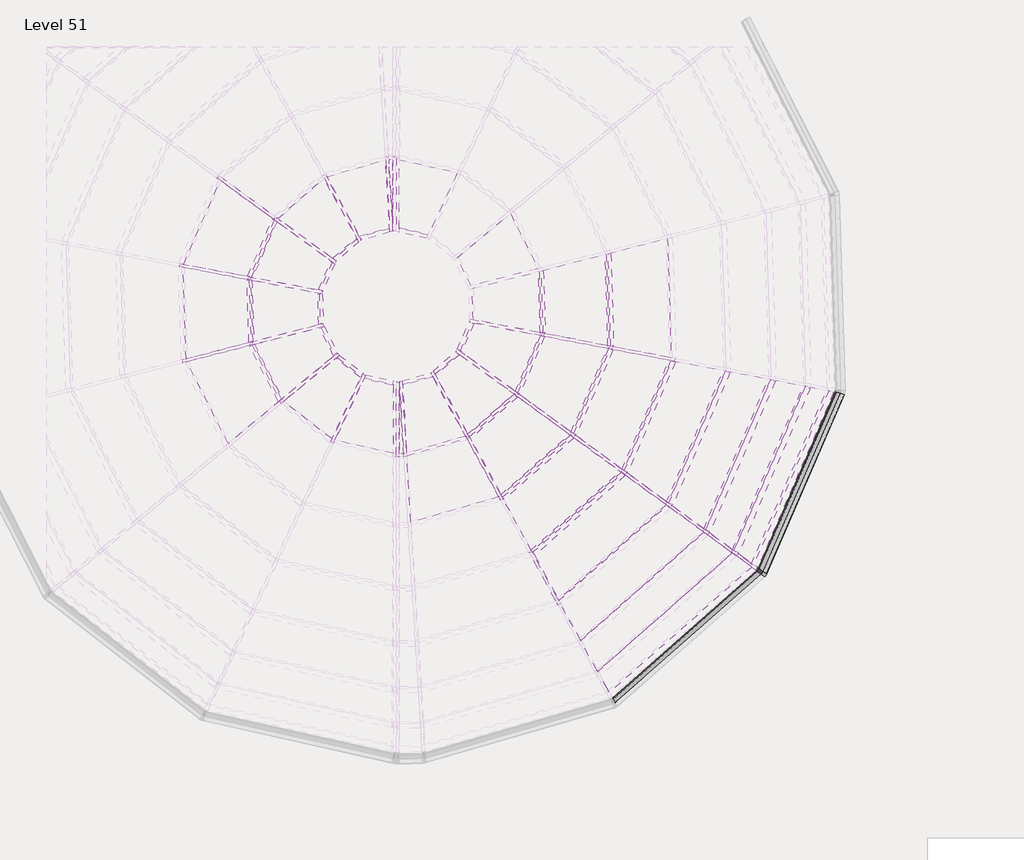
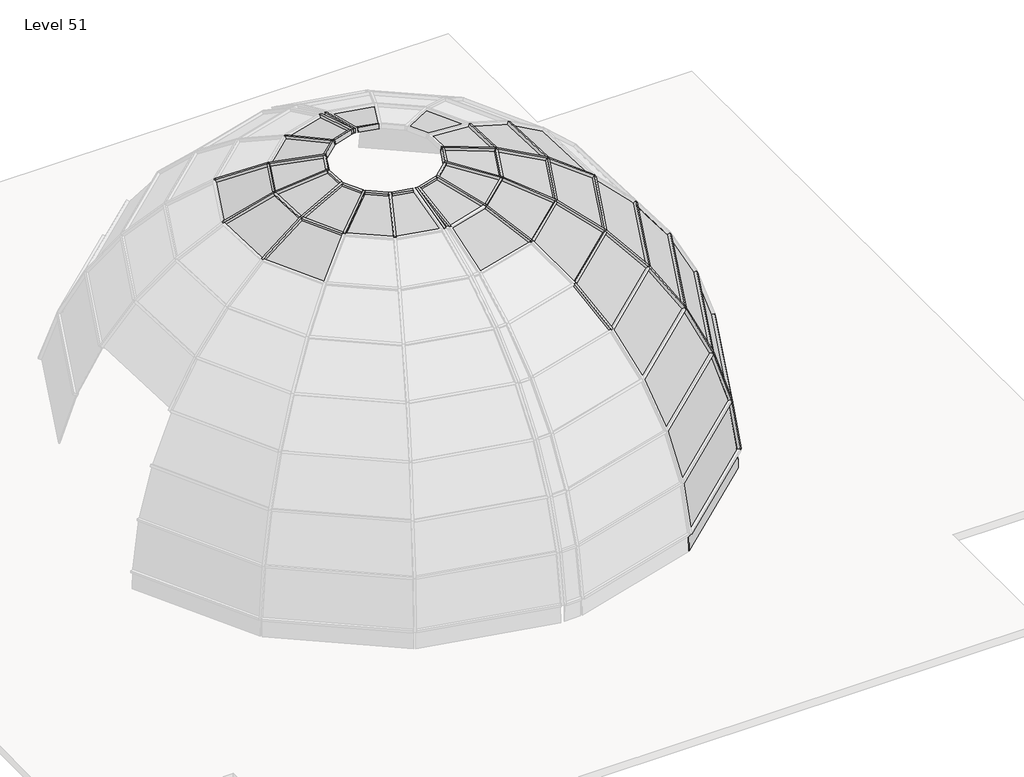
# One storey, part 3 of 5: 54 members, 37 plates.
"""IFC4 building model written with IfcOpenShell, lengths in millimetres."""

from ifc_helpers import new_model, si_unit, origin, place, context, project, spatial, transform, mapped, element, save
from components import member_d183bd50, member_bab2e2f0, member_4ad3c4be, member_d9f9b3f1, member_ae036e1e, member_bd7755a3, member_d21742c5, member_8f2bf440, member_92905304, member_01029f2d, member_1612663b, member_5eaec6db, member_043ce83e, member_8adeae2d, system_panel_glazed_c6a53631, system_panel_glazed_b6fcacd0, system_panel_glazed_ec629fbb, system_panel_glazed_b3b66b1f, system_panel_glazed_0b4b9341, system_panel_glazed_891999a5, system_panel_glazed_cbcbf4f6, system_panel_glazed_e82b84bd, system_panel_glazed_11359935, system_panel_glazed_44e6ebe2, system_panel_glazed_4a3a9a20

model = new_model("IFC4")

# Units and contexts
model_context = context("Model", 3, world=origin())
ifc_project = project(units=[si_unit("LENGTHUNIT", "METRE", prefix="MILLI")], contexts=[model_context])

# Site, building, storey
site = spatial("IfcSite", under=ifc_project)
building = spatial("IfcBuilding", under=site)
storey = spatial("IfcBuildingStorey", under=building, Name="Level 51", Elevation=152400.0)

# Members
placement = place(None, origin())
member_shape = member_d183bd50(model_context)
element("IfcMember", 1, ObjectType="Rectangular Mullion : 2.5\" x 5\" rectangular", at=placement, inside=storey, context=model_context, shape_type="MappedRepresentation", body=[
    mapped(member_shape, transform((10906.4819699, -11526.9660089, 153025.5719668), x_axis=(0.06431051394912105, -0.02788222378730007, -0.9975403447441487), y_axis=(0.9152243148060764, -0.3968012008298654, 0.07009465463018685), z_axis=(-0.39777960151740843, -0.917481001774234, 0.0))),
])
member_2_shape = member_bab2e2f0(model_context)
element("IfcMember", 2, ObjectType="Rectangular Mullion : 2.5\" x 5\" rectangular", at=placement, inside=storey, context=model_context, shape_type="MappedRepresentation", body=[
    mapped(member_2_shape, transform((10720.0249378, -11391.2790141, 154532.0243606), x_axis=(0.2189062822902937, -0.09490818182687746, -0.9711191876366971), y_axis=(0.8909834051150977, -0.38629140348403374, 0.23859489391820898), z_axis=(-0.3977796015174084, -0.917481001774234, 0.0))),
])
member_3_shape = member_4ad3c4be(model_context)
element("IfcMember", 3, ObjectType="Rectangular Mullion : 2.5\" x 5\" rectangular", at=placement, inside=storey, context=model_context, shape_type="MappedRepresentation", body=[
    mapped(member_3_shape, transform((9758.6913571, -10691.7051598, 157327.0596321), x_axis=(0.5029371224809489, -0.2180515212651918, -0.8363658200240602), y_axis=(0.7673497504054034, -0.33268926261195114, 0.5481717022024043), z_axis=(-0.3977796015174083, -0.917481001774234, 0.0))),
])
member_4_shape = member_d9f9b3f1(model_context)
element("IfcMember", 4, ObjectType="Rectangular Mullion : 2.5\" x 5\" rectangular", at=placement, inside=storey, context=model_context, shape_type="MappedRepresentation", body=[
    mapped(member_4_shape, transform((10333.8523952, -11110.2566723, 155979.2538554), x_axis=(0.3665985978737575, -0.15894110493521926, -0.9167023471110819), y_axis=(0.8410569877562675, -0.36464549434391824, 0.39957077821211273), z_axis=(-0.39777960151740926, -0.9174810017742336, 0.0))),
])
member_5_shape = member_ae036e1e(model_context)
element("IfcMember", 5, ObjectType="Rectangular Mullion : 2.5\" x 5\" rectangular", at=placement, inside=storey, context=model_context, shape_type="MappedRepresentation", body=[
    mapped(member_5_shape, transform((2843.4555089, -7547.7281328, 161416.1055894), x_axis=(0.5929825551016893, 0.7641063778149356, 0.2539943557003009), y_axis=(-0.155720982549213, -0.20065918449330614, 0.9672057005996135), z_axis=(0.7900143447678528, -0.6130883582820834, 0.0))),
])
element("IfcMember", 6, ObjectType="Rectangular Mullion : 2.5\" x 5\" rectangular", at=placement, inside=storey, context=model_context, shape_type="MappedRepresentation", body=[
    mapped(member_5_shape, transform((2328.6743232, -7131.1164073, 161416.1055894), x_axis=(0.8619544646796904, 0.4387725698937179, 0.25399435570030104), y_axis=(-0.22635471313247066, -0.11522446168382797, 0.9672057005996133), z_axis=(0.4536496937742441, -0.8911800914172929, 0.0))),
])
element("IfcMember", 7, ObjectType="Rectangular Mullion : 2.5\" x 5\" rectangular", at=placement, inside=storey, context=model_context, shape_type="MappedRepresentation", body=[
    mapped(member_5_shape, transform((2040.3622291, -6534.9275653, 161416.1055894), x_axis=(0.9667445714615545, 0.02986303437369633, 0.2539943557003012), y_axis=(-0.25387326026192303, -0.007842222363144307, 0.9672057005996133), z_axis=(0.030875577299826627, -0.9995232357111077, 0.0))),
])
element("IfcMember", 8, ObjectType="Rectangular Mullion : 2.5\" x 5\" rectangular", at=placement, inside=storey, context=model_context, shape_type="MappedRepresentation", body=[
    mapped(member_5_shape, transform((2033.4358161, -5872.7213861, 161416.1055894), x_axis=(0.8873928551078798, -0.3847346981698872, 0.25399435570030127), y_axis=(-0.23303499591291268, 0.10103377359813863, 0.9672057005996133), z_axis=(-0.39777960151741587, -0.9174810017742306, 0.0))),
])
element("IfcMember", 9, ObjectType="Rectangular Mullion : 2.5\" x 5\" rectangular", at=placement, inside=storey, context=model_context, shape_type="MappedRepresentation", body=[
    mapped(member_5_shape, transform((2309.2144008, -5270.6323801, 161416.1055894), x_axis=(0.6390139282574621, -0.7260496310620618, 0.2539943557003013), y_axis=(-0.1678091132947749, 0.19066524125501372, 0.9672057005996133), z_axis=(-0.750667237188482, -0.660680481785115, 0.0))),
])
element("IfcMember", 10, ObjectType="Rectangular Mullion : 2.5\" x 5\" rectangular", at=placement, inside=storey, context=model_context, shape_type="MappedRepresentation", body=[
    mapped(member_5_shape, transform((2815.1687291, -4843.3441675, 161416.1055894), x_axis=(0.26891806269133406, -0.9290693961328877, 0.2539943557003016), y_axis=(-0.07061959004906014, 0.24397952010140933, 0.9672057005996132), z_axis=(-0.9605706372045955, -0.2780360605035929, 0.0))),
])
element("IfcMember", 11, ObjectType="Rectangular Mullion : 2.5\" x 5\" rectangular", at=placement, inside=storey, context=model_context, shape_type="MappedRepresentation", body=[
    mapped(member_5_shape, transform((5001.8382926, -6503.9517044, 161416.1055894), x_axis=(-0.8873928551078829, 0.3847346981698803, 0.25399435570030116), y_axis=(0.23303499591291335, -0.10103377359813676, 0.9672057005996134), z_axis=(0.3977796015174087, 0.9174810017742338, 0.0))),
])
element("IfcMember", 12, ObjectType="Rectangular Mullion : 2.5\" x 5\" rectangular", at=placement, inside=storey, context=model_context, shape_type="MappedRepresentation", body=[
    mapped(member_5_shape, transform((4726.0597079, -7106.0407104, 161416.1055894), x_axis=(-0.6390139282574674, 0.7260496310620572, 0.253994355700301), y_axis=(0.16780911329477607, -0.19066524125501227, 0.9672057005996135), z_axis=(0.7506672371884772, 0.6606804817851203, 0.0))),
])
element("IfcMember", 13, ObjectType="Rectangular Mullion : 2.5\" x 5\" rectangular", at=placement, inside=storey, context=model_context, shape_type="MappedRepresentation", body=[
    mapped(member_5_shape, transform((4220.1053797, -7533.3289231, 161416.1055894), x_axis=(-0.26891806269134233, 0.9290693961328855, 0.2539943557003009), y_axis=(0.0706195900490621, -0.243979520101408, 0.9672057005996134), z_axis=(0.960570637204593, 0.2780360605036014, 0.0))),
])
member_6_shape = member_bd7755a3(model_context)
element("IfcMember", 14, ObjectType="Rectangular Mullion : 2.5\" x 5\" rectangular", at=placement, inside=storey, context=model_context, shape_type="MappedRepresentation", body=[
    mapped(member_6_shape, transform((8110.1164596, -9492.0176442, 159578.4455769), x_axis=(0.7269350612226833, -0.31516722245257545, -0.6101106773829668), y_axis=(0.5597649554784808, -0.24268958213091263, 0.7923162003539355), z_axis=(-0.3977796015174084, -0.917481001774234, 0.0))),
])
element("IfcMember", 15, ObjectType="Rectangular Mullion : 2.5\" x 5\" rectangular", at=placement, inside=storey, context=model_context, shape_type="MappedRepresentation", body=[
    mapped(member_6_shape, transform((6265.6411804, -11133.3996606, 159578.4455769), x_axis=(0.523467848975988, -0.5947658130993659, -0.6101106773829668), y_axis=(0.4030882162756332, -0.4579900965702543, 0.7923162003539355), z_axis=(-0.7506672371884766, -0.6606804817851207, 0.0))),
])
member_7_shape = member_d21742c5(model_context)
element("IfcMember", 16, ObjectType="Rectangular Mullion : 2.5\" x 5\" rectangular", at=placement, inside=storey, context=model_context, shape_type="MappedRepresentation", body=[
    mapped(member_7_shape, transform((5654.395748, -10019.1268344, 160419.4872466), x_axis=(0.582642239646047, -0.6619999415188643, -0.47147014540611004), y_axis=(0.3114911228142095, -0.35391719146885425, 0.8818820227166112), z_axis=(-0.7506672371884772, -0.6606804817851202, 0.0))),
])
element("IfcMember", 17, ObjectType="Rectangular Mullion : 2.5\" x 5\" rectangular", at=placement, inside=storey, context=model_context, shape_type="MappedRepresentation", body=[
    mapped(member_7_shape, transform((7831.5761292, -6982.4534213, 160419.4872466), x_axis=(0.8814615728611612, 0.027228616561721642, -0.4714701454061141), y_axis=(0.4712453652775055, 0.014556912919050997, 0.881882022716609), z_axis=(0.030875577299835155, -0.9995232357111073, 0.0))),
])
element("IfcMember", 18, ObjectType="Rectangular Mullion : 2.5\" x 5\" rectangular", at=placement, inside=storey, context=model_context, shape_type="MappedRepresentation", body=[
    mapped(member_7_shape, transform((7082.4963475, -8744.2062944, 160419.4872466), x_axis=(0.8091100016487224, -0.3507946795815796, -0.4714701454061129), y_axis=(0.4325649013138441, -0.1875412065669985, 0.8818820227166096), z_axis=(-0.397779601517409, -0.9174810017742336, 0.0))),
])
member_8_shape = member_8f2bf440(model_context)
element("IfcMember", 19, ObjectType="Rectangular Mullion : 2.5\" x 5\" rectangular", at=placement, inside=storey, context=model_context, shape_type="MappedRepresentation", body=[
    mapped(member_8_shape, transform((625.6670963, -6961.4397061, 161037.7653816), x_axis=(-0.8440083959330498, -0.429637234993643, -0.32103220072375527), y_axis=(-0.2860975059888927, -0.14563615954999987, 0.9470682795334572), z_axis=(-0.4536496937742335, 0.8911800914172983, 0.0))),
])
element("IfcMember", 20, ObjectType="Rectangular Mullion : 2.5\" x 5\" rectangular", at=placement, inside=storey, context=model_context, shape_type="MappedRepresentation", body=[
    mapped(member_8_shape, transform((1079.0709232, -4452.0836951, 161037.7653816), x_axis=(-0.8689171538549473, 0.3767244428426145, -0.3210322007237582), y_axis=(-0.2945409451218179, 0.1277000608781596, 0.9470682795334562), z_axis=(0.39777960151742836, 0.9174810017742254, 0.0))),
])
element("IfcMember", 21, ObjectType="Rectangular Mullion : 2.5\" x 5\" rectangular", at=placement, inside=storey, context=model_context, shape_type="MappedRepresentation", body=[
    mapped(member_8_shape, transform((571.8144787, -5656.0696117, 161037.7653816), x_axis=(-0.9466167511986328, -0.029241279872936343, -0.3210322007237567), y_axis=(-0.3208791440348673, -0.0099120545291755, 0.9470682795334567), z_axis=(-0.030875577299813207, 0.9995232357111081, 0.0))),
])
element("IfcMember", 22, ObjectType="Rectangular Mullion : 2.5\" x 5\" rectangular", at=placement, inside=storey, context=model_context, shape_type="MappedRepresentation", body=[
    mapped(member_8_shape, transform((6463.45963, -6720.6034789, 161037.7653816), x_axis=(0.9466167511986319, 0.029241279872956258, -0.32103220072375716), y_axis=(0.32087914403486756, 0.009912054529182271, 0.9470682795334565), z_axis=(0.03087557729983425, -0.9995232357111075, 0.0))),
])
element("IfcMember", 23, ObjectType="Rectangular Mullion : 2.5\" x 5\" rectangular", at=placement, inside=storey, context=model_context, shape_type="MappedRepresentation", body=[
    mapped(member_8_shape, transform((5956.2031855, -7924.5893954, 161037.7653816), x_axis=(0.868917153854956, -0.3767244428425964, -0.3210322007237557), y_axis=(0.29454094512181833, -0.12770006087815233, 0.947068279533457), z_axis=(-0.39777960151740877, -0.9174810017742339, 0.0))),
])
element("IfcMember", 24, ObjectType="Rectangular Mullion : 2.5\" x 5\" rectangular", at=placement, inside=storey, context=model_context, shape_type="MappedRepresentation", body=[
    mapped(member_8_shape, transform((4984.4579542, -8797.8604834, 161037.7653816), x_axis=(0.6257095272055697, -0.7109331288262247, -0.32103220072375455), y_axis=(0.21209970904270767, -0.24098835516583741, 0.9470682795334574), z_axis=(-0.7506672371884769, -0.6606804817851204, 0.0))),
])
member_9_shape = member_92905304(model_context)
element("IfcMember", 25, ObjectType="Rectangular Mullion : 2.5\" x 5\" rectangular", at=placement, inside=storey, context=model_context, shape_type="MappedRepresentation", body=[
    mapped(member_9_shape, transform((3455.6673997, -7698.4797092, 161416.1055894), x_axis=(0.21106158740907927, 0.9438961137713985, 0.2539943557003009), y_axis=(-0.05542611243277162, -0.2478731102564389, 0.9672057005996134), z_axis=(0.9759000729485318, -0.21821789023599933, 0.0))),
])
element("IfcMember", 26, ObjectType="Rectangular Mullion : 2.5\" x 5\" rectangular", at=placement, inside=storey, context=model_context, shape_type="MappedRepresentation", body=[
    mapped(member_9_shape, transform((3579.606709, -4678.1933813, 161416.1055894), x_axis=(-0.21106158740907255, -0.9438961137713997, 0.2539943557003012), y_axis=(0.05542611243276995, 0.24787311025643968, 0.9672057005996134), z_axis=(-0.9759000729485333, 0.21821789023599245, 0.0))),
])
member_10_shape = member_01029f2d(model_context)
element("IfcMember", 27, ObjectType="Rectangular Mullion : 2.5\" x 5\" rectangular", at=placement, inside=storey, context=model_context, shape_type="MappedRepresentation", body=[
    mapped(member_10_shape, transform((9010.518519, -10147.2509073, 158538.0026411), x_axis=(0.6240863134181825, -0.27057650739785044, -0.733010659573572), y_axis=(0.6725233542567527, -0.2915766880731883, 0.6802171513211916), z_axis=(-0.39777960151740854, -0.9174810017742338, 0.0))),
])
member_11_shape = member_1612663b(model_context)
element("IfcMember", 28, ObjectType="Rectangular Mullion : 2.5\" x 5\" rectangular", at=placement, inside=storey, context=model_context, shape_type="MappedRepresentation", body=[
    mapped(member_11_shape, transform((611.2637185, -6933.1447382, 161037.7653816), x_axis=(-0.24824532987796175, 0.9686971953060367, 0.0), y_axis=(-0.39299494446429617, -0.10071171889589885, 0.9140088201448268), z_axis=(0.8853977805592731, 0.22689842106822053, 0.4056943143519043))),
])
element("IfcMember", 29, ObjectType="Rectangular Mullion : 2.5\" x 5\" rectangular", at=placement, inside=storey, context=model_context, shape_type="MappedRepresentation", body=[
    mapped(member_11_shape, transform((570.8341791, -5624.3347489, 161037.7653816), x_axis=(0.1879823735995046, 0.9821724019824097, 0.0), y_axis=(-0.3984617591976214, 0.07626338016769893, 0.9140088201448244), z_axis=(0.8977142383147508, -0.17181754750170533, 0.4056943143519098))),
])
element("IfcMember", 30, ObjectType="Rectangular Mullion : 2.5\" x 5\" rectangular", at=placement, inside=storey, context=model_context, shape_type="MappedRepresentation", body=[
    mapped(member_11_shape, transform((1091.7004255, -4422.9536733, 161037.7653816), x_axis=(0.5884039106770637, 0.8085671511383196, 0.0), y_axis=(-0.32803109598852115, 0.2387121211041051, 0.9140088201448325), z_axis=(0.7390375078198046, -0.5378063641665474, 0.40569431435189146))),
])
element("IfcMember", 31, ObjectType="Rectangular Mullion : 2.5\" x 5\" rectangular", at=placement, inside=storey, context=model_context, shape_type="MappedRepresentation", body=[
    mapped(member_11_shape, transform((6464.4399296, -6752.3383416, 161037.7653816), x_axis=(-0.187982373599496, -0.9821724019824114, 0.0), y_axis=(0.3984617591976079, -0.076263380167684, 0.9140088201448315), z_axis=(-0.8977142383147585, 0.1718175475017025, 0.40569431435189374))),
])
element("IfcMember", 32, ObjectType="Rectangular Mullion : 2.5\" x 5\" rectangular", at=placement, inside=storey, context=model_context, shape_type="MappedRepresentation", body=[
    mapped(member_11_shape, transform((7832.5564288, -7014.188284, 160419.4872466), x_axis=(-0.18798237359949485, -0.9821724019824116, 0.0), y_axis=(0.5420261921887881, -0.10374081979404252, 0.8339337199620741), z_axis=(-0.8190666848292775, 0.1567648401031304, 0.5518646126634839))),
])
element("IfcMember", 33, ObjectType="Rectangular Mullion : 2.5\" x 5\" rectangular", at=placement, inside=storey, context=model_context, shape_type="MappedRepresentation", body=[
    mapped(member_11_shape, transform((5943.5736832, -7953.7194172, 161037.7653816), x_axis=(-0.5884039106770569, -0.8085671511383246, 0.0), y_axis=(0.32803109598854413, -0.2387121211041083, 0.9140088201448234), z_axis=(-0.7390375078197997, 0.5378063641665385, 0.40569431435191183))),
])
element("IfcMember", 34, ObjectType="Rectangular Mullion : 2.5\" x 5\" rectangular", at=placement, inside=storey, context=model_context, shape_type="MappedRepresentation", body=[
    mapped(member_11_shape, transform((7069.8668451, -8773.3363162, 160419.4872466), x_axis=(-0.588403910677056, -0.8085671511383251, 0.0), y_axis=(0.44621959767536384, -0.32471929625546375, 0.83393371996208), z_axis=(-0.674291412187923, 0.4906898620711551, 0.5518646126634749))),
])
element("IfcMember", 35, ObjectType="Rectangular Mullion : 2.5\" x 5\" rectangular", at=placement, inside=storey, context=model_context, shape_type="MappedRepresentation", body=[
    mapped(member_11_shape, transform((8097.4869573, -9521.147666, 159578.4455769), x_axis=(-0.5884039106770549, -0.8085671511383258, 0.0), y_axis=(0.5520131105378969, -0.4017064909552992, 0.7306937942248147), z_axis=(-0.5908149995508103, 0.4299430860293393, 0.6827053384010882))),
])
element("IfcMember", 36, ObjectType="Rectangular Mullion : 2.5\" x 5\" rectangular", at=placement, inside=storey, context=model_context, shape_type="MappedRepresentation", body=[
    mapped(member_11_shape, transform((8997.8890166, -10176.3809291, 158538.0026411), x_axis=(-0.5884039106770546, -0.8085671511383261, 0.0), y_axis=(0.6424729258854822, -0.46753517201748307, 0.6071568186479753), z_axis=(-0.4909270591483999, 0.3572534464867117, 0.7945820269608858))),
])
element("IfcMember", 37, ObjectType="Rectangular Mullion : 2.5\" x 5\" rectangular", at=placement, inside=storey, context=model_context, shape_type="MappedRepresentation", body=[
    mapped(member_11_shape, transform((9746.0618547, -10720.8351816, 157327.0596321), x_axis=(-0.5884039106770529, -0.8085671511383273, 0.0), y_axis=(0.7150862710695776, -0.5203767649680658, 0.4667543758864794), z_axis=(-0.3774022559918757, 0.27464010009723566, 0.8843869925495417))),
])
element("IfcMember", 38, ObjectType="Rectangular Mullion : 2.5\" x 5\" rectangular", at=placement, inside=storey, context=model_context, shape_type="MappedRepresentation", body=[
    mapped(member_11_shape, transform((10321.2228929, -11139.3866941, 155979.2538554), x_axis=(-0.5884039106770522, -0.8085671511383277, 0.0), y_axis=(0.7678361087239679, -0.5587634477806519, 0.3133865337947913), z_axis=(-0.25339405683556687, 0.1843978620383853, 0.9496256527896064))),
])
element("IfcMember", 39, ObjectType="Rectangular Mullion : 2.5\" x 5\" rectangular", at=placement, inside=storey, context=model_context, shape_type="MappedRepresentation", body=[
    mapped(member_11_shape, transform((4960.6242694, -8818.8370887, 161037.7653816), x_axis=(-0.8767485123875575, -0.4809491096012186, 0.0), y_axis=(0.1951183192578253, -0.3556918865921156, 0.9140088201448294), z_axis=(-0.4395917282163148, 0.8013558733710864, 0.4056943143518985))),
])
element("IfcMember", 40, ObjectType="Rectangular Mullion : 2.5\" x 5\" rectangular", at=placement, inside=storey, context=model_context, shape_type="MappedRepresentation", body=[
    mapped(member_11_shape, transform((6241.8074956, -11154.3762659, 159578.4455769), x_axis=(-0.8767485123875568, -0.48094910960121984, 0.0), y_axis=(0.32834652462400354, -0.5985608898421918, 0.7306937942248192), z_axis=(-0.351426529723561, 0.6406346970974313, 0.6827053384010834))),
])
member_12_shape = member_5eaec6db(model_context)
element("IfcMember", 41, ObjectType="Rectangular Mullion : 2.5\" x 5\" rectangular", at=placement, inside=storey, context=model_context, shape_type="MappedRepresentation", body=[
    mapped(member_12_shape, transform((10707.3954355, -11420.4090359, 154532.0243606), x_axis=(-0.5884039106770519, -0.8085671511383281, 0.0), y_axis=(0.7992571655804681, -0.5816289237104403, 0.15131351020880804), z_axis=(-0.12234713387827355, 0.08903346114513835, 0.9884858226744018))),
])
member_13_shape = member_043ce83e(model_context)
element("IfcMember", 42, ObjectType="Rectangular Mullion : 2.5\" x 5\" rectangular", at=placement, inside=storey, context=model_context, shape_type="MappedRepresentation", body=[
    mapped(member_13_shape, transform((2784.6706113, -4852.1718124, 161416.1055894), x_axis=(0.8767485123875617, 0.480949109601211, 0.0), y_axis=(-0.11939789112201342, 0.21765696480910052, 0.9686947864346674), z_axis=(0.46589289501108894, -0.8493017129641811, 0.24825472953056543))),
])
element("IfcMember", 43, ObjectType="Rectangular Mullion : 2.5\" x 5\" rectangular", at=placement, inside=storey, context=model_context, shape_type="MappedRepresentation", body=[
    mapped(member_13_shape, transform((3423.5731625, -4667.2422076, 161416.1055894), x_axis=(0.9980933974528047, 0.061721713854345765, 0.0), y_axis=(-0.015322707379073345, 0.2477814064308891, 0.9686947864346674), z_axis=(0.05978950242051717, -0.9668478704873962, 0.24825472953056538))),
])
element("IfcMember", 44, ObjectType="Rectangular Mullion : 2.5\" x 5\" rectangular", at=placement, inside=storey, context=model_context, shape_type="MappedRepresentation", body=[
    mapped(member_13_shape, transform((2868.5384643, -7567.1936881, 161416.1055894), x_axis=(-0.9047619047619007, 0.42591770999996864, 0.0), y_axis=(-0.10573608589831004, -0.22461142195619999, 0.9686947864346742), z_axis=(0.41258426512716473, 0.8764381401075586, 0.24825472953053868))),
])
element("IfcMember", 45, ObjectType="Rectangular Mullion : 2.5\" x 5\" rectangular", at=placement, inside=storey, context=model_context, shape_type="MappedRepresentation", body=[
    mapped(member_13_shape, transform((2343.077701, -7159.4113752, 161416.1055894), x_axis=(-0.637188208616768, 0.7707082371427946, 0.0), y_axis=(-0.191331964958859, -0.15818498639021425, 0.9686947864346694), z_axis=(0.7465810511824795, 0.6172408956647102, 0.2482547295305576))),
])
element("IfcMember", 46, ObjectType="Rectangular Mullion : 2.5\" x 5\" rectangular", at=placement, inside=storey, context=model_context, shape_type="MappedRepresentation", body=[
    mapped(member_13_shape, transform((2041.3425287, -6566.662428, 161416.1055894), x_axis=(-0.2482453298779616, 0.9686971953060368, 0.0), y_axis=(-0.2404836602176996, -0.0616280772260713, 0.9686947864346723), z_axis=(0.9383719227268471, 0.2404739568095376, 0.2482547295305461))),
])
element("IfcMember", 47, ObjectType="Rectangular Mullion : 2.5\" x 5\" rectangular", at=placement, inside=storey, context=model_context, shape_type="MappedRepresentation", body=[
    mapped(member_13_shape, transform((2020.8063137, -5901.8514079, 161416.1055894), x_axis=(0.18798237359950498, 0.9821724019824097, 0.0), y_axis=(-0.24382894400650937, 0.046667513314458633, 0.9686947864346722), z_axis=(0.9514252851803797, -0.18209754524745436, 0.24825472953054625))),
])
element("IfcMember", 48, ObjectType="Rectangular Mullion : 2.5\" x 5\" rectangular", at=placement, inside=storey, context=model_context, shape_type="MappedRepresentation", body=[
    mapped(member_13_shape, transform((2285.380716, -5291.6089854, 161416.1055894), x_axis=(0.5884039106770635, 0.8085671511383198, 0.0), y_axis=(-0.20073061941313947, 0.14607405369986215, 0.968694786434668), z_axis=(0.783254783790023, -0.5699838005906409, 0.24825472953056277))),
])
element("IfcMember", 49, ObjectType="Rectangular Mullion : 2.5\" x 5\" rectangular", at=placement, inside=storey, context=model_context, shape_type="MappedRepresentation", body=[
    mapped(member_13_shape, transform((5014.467795, -6474.8216826, 161416.1055894), x_axis=(-0.18798237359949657, -0.9821724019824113, 0.0), y_axis=(0.24382894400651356, -0.046667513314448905, 0.9686947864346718), z_axis=(-0.9514252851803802, 0.1820975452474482, 0.2482547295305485))),
])
element("IfcMember", 50, ObjectType="Rectangular Mullion : 2.5\" x 5\" rectangular", at=placement, inside=storey, context=model_context, shape_type="MappedRepresentation", body=[
    mapped(member_13_shape, transform((4749.8933927, -7085.0641051, 161416.1055894), x_axis=(-0.5884039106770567, -0.8085671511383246, 0.0), y_axis=(0.20073061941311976, -0.14607405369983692, 0.968694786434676), z_axis=(-0.7832547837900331, 0.5699838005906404, 0.24825472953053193))),
])
element("IfcMember", 51, ObjectType="Rectangular Mullion : 2.5\" x 5\" rectangular", at=placement, inside=storey, context=model_context, shape_type="MappedRepresentation", body=[
    mapped(member_13_shape, transform((4250.6034974, -7524.5012781, 161416.1055894), x_axis=(-0.8767485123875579, -0.48094910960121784, 0.0), y_axis=(0.11939789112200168, -0.21765696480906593, 0.9686947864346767), z_axis=(-0.46589289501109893, 0.8493017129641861, 0.24825472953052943))),
])
element("IfcMember", 52, ObjectType="Rectangular Mullion : 2.5\" x 5\" rectangular", at=placement, inside=storey, context=model_context, shape_type="MappedRepresentation", body=[
    mapped(member_13_shape, transform((3611.7009463, -7709.430883, 161416.1055894), x_axis=(-0.998093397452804, -0.06172171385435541, 0.0), y_axis=(0.01532270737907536, -0.24778140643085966, 0.9686947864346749), z_axis=(-0.059789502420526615, 0.9668478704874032, 0.24825472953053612))),
])
member_14_shape = member_8adeae2d(model_context)
element("IfcMember", 53, ObjectType="Rectangular Mullion : 2.5\" x 5\" rectangular", at=placement, inside=storey, context=model_context, shape_type="MappedRepresentation", body=[
    mapped(member_14_shape, transform((3517.6370544, -4664.3365453, 161416.1055894), x_axis=(0.9999705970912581, 0.0019037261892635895, 0.007428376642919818), y_axis=(-0.007668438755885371, 0.24824743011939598, 0.9686663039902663), z_axis=(0.0, -0.9686947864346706, 0.2482547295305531))),
])
element("IfcMember", 54, ObjectType="Rectangular Mullion : 2.5\" x 5\" rectangular", at=placement, inside=storey, context=model_context, shape_type="MappedRepresentation", body=[
    mapped(member_14_shape, transform((3517.6370544, -7712.3365453, 161416.1055894), x_axis=(-0.9999705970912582, -0.0019037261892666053, 0.007428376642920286), y_axis=(0.007668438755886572, -0.24824743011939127, 0.9686663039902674), z_axis=(0.0, 0.9686947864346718, 0.24825472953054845))),
])

# Plates
system_panel_glazed_shape = system_panel_glazed_c6a53631(model_context)
element("IfcPlate", 55, ObjectType="System Panel : Glazed", at=placement, inside=storey, context=model_context, shape_type="MappedRepresentation", body=[
    mapped(system_panel_glazed_shape, transform((3163.8347517, -7696.1582187, 161399.9769479), x_axis=(-0.9759000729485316, 0.2182178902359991, 0.0), y_axis=(0.05542611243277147, 0.2478731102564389, -0.9672057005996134), z_axis=(-0.2110615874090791, -0.9438961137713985, -0.2539943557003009))),
])
element("IfcPlate", 56, ObjectType="System Panel : Glazed", at=placement, inside=storey, context=model_context, shape_type="MappedRepresentation", body=[
    mapped(system_panel_glazed_shape, transform((3871.439357, -4680.5148718, 161399.9769479), x_axis=(0.9759000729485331, -0.2182178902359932, 0.0), y_axis=(-0.055426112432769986, -0.24787311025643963, -0.9672057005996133), z_axis=(0.21106158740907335, 0.9438961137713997, -0.25399435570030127))),
])
system_panel_glazed_2_shape = system_panel_glazed_b6fcacd0(model_context)
element("IfcPlate", 57, ObjectType="System Panel : Glazed", at=placement, inside=storey, context=model_context, shape_type="MappedRepresentation", body=[
    mapped(system_panel_glazed_2_shape, transform((2568.1536904, -7411.8232867, 161399.9769479), x_axis=(-0.790014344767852, 0.6130883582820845, 0.0), y_axis=(0.15572098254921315, 0.20065918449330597, -0.9672057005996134), z_axis=(-0.5929825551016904, -0.7641063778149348, -0.2539943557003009))),
])
element("IfcPlate", 58, ObjectType="System Panel : Glazed", at=placement, inside=storey, context=model_context, shape_type="MappedRepresentation", body=[
    mapped(system_panel_glazed_2_shape, transform((2137.4760063, -6890.8989598, 161399.9769479), x_axis=(-0.453649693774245, 0.8911800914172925, 0.0), y_axis=(0.22635471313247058, 0.11522446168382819, -0.9672057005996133), z_axis=(-0.8619544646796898, -0.4387725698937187, -0.25399435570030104))),
])
element("IfcPlate", 59, ObjectType="System Panel : Glazed", at=placement, inside=storey, context=model_context, shape_type="MappedRepresentation", body=[
    mapped(system_panel_glazed_2_shape, transform((1969.6861409, -6236.1532206, 161399.9769479), x_axis=(-0.030875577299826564, 0.9995232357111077, 0.0), y_axis=(0.25387326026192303, 0.007842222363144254, -0.9672057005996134), z_axis=(-0.9667445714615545, -0.029863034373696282, -0.2539943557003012))),
])
element("IfcPlate", 60, ObjectType="System Panel : Glazed", at=placement, inside=storey, context=model_context, shape_type="MappedRepresentation", body=[
    mapped(system_panel_glazed_2_shape, transform((2096.7440686, -5572.2995433, 161399.9769479), x_axis=(0.3977796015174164, 0.9174810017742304, 0.0), y_axis=(0.23303499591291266, -0.10103377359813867, -0.9672057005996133), z_axis=(-0.8873928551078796, 0.38473469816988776, -0.25399435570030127))),
])
element("IfcPlate", 61, ObjectType="System Panel : Glazed", at=placement, inside=storey, context=model_context, shape_type="MappedRepresentation", body=[
    mapped(system_panel_glazed_2_shape, transform((2494.4482792, -5025.7862473, 161399.9769479), x_axis=(0.7506672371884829, 0.6606804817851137, 0.0), y_axis=(0.16780911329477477, -0.19066524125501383, -0.9672057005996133), z_axis=(-0.639013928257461, 0.7260496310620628, -0.2539943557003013))),
])
element("IfcPlate", 62, ObjectType="System Panel : Glazed", at=placement, inside=storey, context=model_context, shape_type="MappedRepresentation", body=[
    mapped(system_panel_glazed_2_shape, transform((3087.0455899, -4700.7111033, 161399.9769479), x_axis=(0.9605706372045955, 0.27803606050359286, 0.0), y_axis=(0.07061959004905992, -0.2439795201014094, -0.9672057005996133), z_axis=(-0.26891806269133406, 0.9290693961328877, -0.25399435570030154))),
])
element("IfcPlate", 63, ObjectType="System Panel : Glazed", at=placement, inside=storey, context=model_context, shape_type="MappedRepresentation", body=[
    mapped(system_panel_glazed_2_shape, transform((4897.7981024, -5485.7741307, 161399.9769479), x_axis=(0.4536496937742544, -0.8911800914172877, 0.0), y_axis=(-0.2263547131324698, -0.11522446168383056, -0.9672057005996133), z_axis=(0.8619544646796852, 0.4387725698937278, -0.25399435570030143))),
])
element("IfcPlate", 64, ObjectType="System Panel : Glazed", at=placement, inside=storey, context=model_context, shape_type="MappedRepresentation", body=[
    mapped(system_panel_glazed_2_shape, transform((5065.5879678, -6140.5198699, 161399.9769479), x_axis=(0.03087557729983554, -0.9995232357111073, 0.0), y_axis=(-0.253873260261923, -0.007842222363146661, -0.9672057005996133), z_axis=(0.966744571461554, 0.029863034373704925, -0.25399435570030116))),
])
element("IfcPlate", 65, ObjectType="System Panel : Glazed", at=placement, inside=storey, context=model_context, shape_type="MappedRepresentation", body=[
    mapped(system_panel_glazed_2_shape, transform((4938.5300401, -6804.3735472, 161399.9769479), x_axis=(-0.39777960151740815, -0.9174810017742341, 0.0), y_axis=(-0.23303499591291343, 0.10103377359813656, -0.9672057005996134), z_axis=(0.8873928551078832, -0.3847346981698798, -0.25399435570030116))),
])
element("IfcPlate", 66, ObjectType="System Panel : Glazed", at=placement, inside=storey, context=model_context, shape_type="MappedRepresentation", body=[
    mapped(system_panel_glazed_2_shape, transform((4540.8258295, -7350.8868432, 161399.9769479), x_axis=(-0.7506672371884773, -0.6606804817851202, 0.0), y_axis=(-0.16780911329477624, 0.19066524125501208, -0.9672057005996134), z_axis=(0.6390139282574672, -0.7260496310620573, -0.253994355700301))),
])
element("IfcPlate", 67, ObjectType="System Panel : Glazed", at=placement, inside=storey, context=model_context, shape_type="MappedRepresentation", body=[
    mapped(system_panel_glazed_2_shape, transform((3948.2285188, -7675.9619872, 161399.9769479), x_axis=(-0.9605706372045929, -0.2780360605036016, 0.0), y_axis=(-0.07061959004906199, 0.24397952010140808, -0.9672057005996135), z_axis=(0.26891806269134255, -0.9290693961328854, -0.2539943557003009))),
])
system_panel_glazed_3_shape = system_panel_glazed_ec629fbb(model_context)
element("IfcPlate", 68, ObjectType="System Panel : Glazed", at=placement, inside=storey, context=model_context, shape_type="MappedRepresentation", body=[
    mapped(system_panel_glazed_3_shape, transform((3454.1389215, -4647.1263661, 161411.1923244), x_axis=(0.9995232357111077, 0.03087557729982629, 0.0), y_axis=(0.00766843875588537, -0.24824743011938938, -0.9686663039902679), z_axis=(-0.029908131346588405, 0.9682044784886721, -0.2483658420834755))),
])
element("IfcPlate", 69, ObjectType="System Panel : Glazed", at=placement, inside=storey, context=model_context, shape_type="MappedRepresentation", body=[
    mapped(system_panel_glazed_3_shape, transform((3581.1351873, -7729.5467245, 161411.1923244), x_axis=(-0.9995232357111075, -0.030875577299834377, 0.0), y_axis=(-0.007668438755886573, 0.24824743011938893, -0.9686663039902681), z_axis=(0.029908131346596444, -0.968204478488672, -0.2483658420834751))),
])
system_panel_glazed_4_shape = system_panel_glazed_b3b66b1f(model_context)
element("IfcPlate", 70, ObjectType="System Panel : Glazed", at=placement, inside=storey, context=model_context, shape_type="MappedRepresentation", body=[
    mapped(system_panel_glazed_4_shape, transform((882.5198599, -7529.7265964, 161024.6204715), x_axis=(-0.45364969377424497, 0.8911800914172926, 0.0), y_axis=(0.36896007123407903, 0.18781683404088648, -0.910271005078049), z_axis=(-0.8112153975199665, -0.4129441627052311, -0.4140129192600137))),
])
element("IfcPlate", 71, ObjectType="System Panel : Glazed", at=placement, inside=storey, context=model_context, shape_type="MappedRepresentation", body=[
    mapped(system_panel_glazed_4_shape, transform((562.1616234, -6279.6320818, 161024.6204715), x_axis=(-0.030875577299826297, 0.9995232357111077, 0.0), y_axis=(0.41381553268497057, 0.01278288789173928, -0.910271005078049), z_axis=(-0.9098370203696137, -0.028105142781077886, -0.4140129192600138))),
])
element("IfcPlate", 72, ObjectType="System Panel : Glazed", at=placement, inside=storey, context=model_context, shape_type="MappedRepresentation", body=[
    mapped(system_panel_glazed_4_shape, transform((804.7510881, -5012.1479413, 161024.6204715), x_axis=(0.397779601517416, 0.9174810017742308, 0.0), y_axis=(0.3798489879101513, -0.1646858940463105, -0.9102710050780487), z_axis=(-0.835156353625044, 0.36208723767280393, -0.41401291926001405))),
])
element("IfcPlate", 73, ObjectType="System Panel : Glazed", at=placement, inside=storey, context=model_context, shape_type="MappedRepresentation", body=[
    mapped(system_panel_glazed_4_shape, transform((6473.1124853, -6097.0410087, 161024.6204715), x_axis=(0.030875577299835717, -0.9995232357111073, 0.0), y_axis=(-0.41381553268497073, -0.012782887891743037, -0.9102710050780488), z_axis=(0.9098370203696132, 0.02810514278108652, -0.4140129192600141))),
])
element("IfcPlate", 74, ObjectType="System Panel : Glazed", at=placement, inside=storey, context=model_context, shape_type="MappedRepresentation", body=[
    mapped(system_panel_glazed_4_shape, transform((6230.5230206, -7364.5251492, 161024.6204715), x_axis=(-0.39777960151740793, -0.9174810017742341, 0.0), y_axis=(-0.3798489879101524, 0.1646858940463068, -0.910271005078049), z_axis=(0.8351563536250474, -0.3620872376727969, -0.4140129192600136))),
])
element("IfcPlate", 75, ObjectType="System Panel : Glazed", at=placement, inside=storey, context=model_context, shape_type="MappedRepresentation", body=[
    mapped(system_panel_glazed_4_shape, transform((5471.1933719, -8407.9733652, 161024.6204715), x_axis=(-0.7506672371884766, -0.6606804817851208, 0.0), y_axis=(-0.27353025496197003, 0.31078593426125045, -0.910271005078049), z_axis=(0.6013982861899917, -0.6833106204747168, -0.4140129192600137))),
])
element("IfcPlate", 76, ObjectType="System Panel : Glazed", at=placement, inside=storey, context=model_context, shape_type="MappedRepresentation", body=[
    mapped(system_panel_glazed_4_shape, transform((4339.7577579, -9028.6336154, 161024.6204715), x_axis=(-0.9605706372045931, -0.2780360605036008, 0.0), y_axis=(-0.11511052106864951, 0.39768865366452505, -0.910271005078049), z_axis=(0.253088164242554, -0.874379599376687, -0.4140129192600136))),
])
system_panel_glazed_5_shape = system_panel_glazed_0b4b9341(model_context)
element("IfcPlate", 77, ObjectType="System Panel : Glazed", at=placement, inside=storey, context=model_context, shape_type="MappedRepresentation", body=[
    mapped(system_panel_glazed_5_shape, transform((7829.2220637, -6055.1503706, 160401.668006), x_axis=(0.030875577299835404, -0.9995232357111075, 0.0), y_axis=(-0.5609683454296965, -0.017328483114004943, -0.8276558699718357), z_axis=(0.8272612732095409, 0.025554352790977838, -0.5612359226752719))),
])
element("IfcPlate", 78, ObjectType="System Panel : Glazed", at=placement, inside=storey, context=model_context, shape_type="MappedRepresentation", body=[
    mapped(system_panel_glazed_5_shape, transform((7475.3212705, -7904.2151819, 160401.668006), x_axis=(-0.39777960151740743, -0.9174810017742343, 0.0), y_axis=(-0.5149232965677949, 0.22324820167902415, -0.8276558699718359), z_axis=(0.7593585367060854, -0.32922462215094, -0.5612359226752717))),
])
element("IfcPlate", 79, ObjectType="System Panel : Glazed", at=placement, inside=storey, context=model_context, shape_type="MappedRepresentation", body=[
    mapped(system_panel_glazed_5_shape, transform((6367.5758647, -9426.4459671, 160401.668006), x_axis=(-0.7506672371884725, -0.6606804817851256, 0.0), y_axis=(-0.3707976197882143, 0.42130141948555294, -0.827655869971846), z_axis=(0.5468160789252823, -0.6212941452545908, -0.5612359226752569))),
])
system_panel_glazed_6_shape = system_panel_glazed_891999a5(model_context)
element("IfcPlate", 80, ObjectType="System Panel : Glazed", at=placement, inside=storey, context=model_context, shape_type="MappedRepresentation", body=[
    mapped(system_panel_glazed_6_shape, transform((8610.1918677, -8396.2453962, 159556.4887654), x_axis=(-0.3977796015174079, -0.9174810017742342, 0.0), y_axis=(-0.6344868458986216, 0.27508572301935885, -0.7223256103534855), z_axis=(0.6627200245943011, -0.2873263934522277, -0.6915531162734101))),
])
element("IfcPlate", 81, ObjectType="System Panel : Glazed", at=placement, inside=storey, context=model_context, shape_type="MappedRepresentation", body=[
    mapped(system_panel_glazed_6_shape, transform((7184.7991657, -10354.9776469, 159556.4887654), x_axis=(-0.7506672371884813, -0.6606804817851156, 0.0), y_axis=(-0.45689564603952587, 0.5191262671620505, -0.7223256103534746), z_axis=(0.4772264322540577, -0.5422261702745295, -0.6915531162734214))),
])
system_panel_glazed_7_shape = system_panel_glazed_cbcbf4f6(model_context)
element("IfcPlate", 82, ObjectType="System Panel : Glazed", at=placement, inside=storey, context=model_context, shape_type="MappedRepresentation", body=[
    mapped(system_panel_glazed_7_shape, transform((9603.6277709, -8826.9557182, 158512.550274), x_axis=(-0.39777960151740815, -0.9174810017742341, 0.0), y_axis=(-0.7354980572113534, 0.3188797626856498, -0.5977945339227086), z_axis=(0.548465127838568, -0.23779047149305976, -0.8016493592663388))),
])
element("IfcPlate", 83, ObjectType="System Panel : Glazed", at=placement, inside=storey, context=model_context, shape_type="MappedRepresentation", body=[
    mapped(system_panel_glazed_7_shape, transform((7900.1749718, -11167.7898832, 158512.550274), x_axis=(-0.7506672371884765, -0.6606804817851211, 0.0), y_axis=(-0.5296340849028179, 0.6017719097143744, -0.5977945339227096), z_axis=(0.3949511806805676, -0.4487447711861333, -0.8016493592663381))),
])
system_panel_glazed_8_shape = system_panel_glazed_e82b84bd(model_context)
element("IfcPlate", 84, ObjectType="System Panel : Glazed", at=placement, inside=storey, context=model_context, shape_type="MappedRepresentation", body=[
    mapped(system_panel_glazed_8_shape, transform((10428.0441741, -9184.3865835, 157298.8335509), x_axis=(-0.3977796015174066, -0.9174810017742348, 0.0), y_axis=(-0.8156501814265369, 0.3536302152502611, -0.45788694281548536), z_axis=(0.4201025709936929, -0.18213808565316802, -0.8890104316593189))),
])
element("IfcPlate", 85, ObjectType="System Panel : Glazed", at=placement, inside=storey, context=model_context, shape_type="MappedRepresentation", body=[
    mapped(system_panel_glazed_8_shape, transform((8493.8393914, -11842.3132602, 157298.8335509), x_axis=(-0.7506672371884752, -0.6606804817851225, 0.0), y_axis=(-0.5873518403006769, 0.6673510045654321, -0.45788694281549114), z_axis=(0.30251696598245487, -0.3437207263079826, -0.8890104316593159))),
])
system_panel_glazed_9_shape = system_panel_glazed_11359935(model_context)
element("IfcPlate", 86, ObjectType="System Panel : Glazed", at=placement, inside=storey, context=model_context, shape_type="MappedRepresentation", body=[
    mapped(system_panel_glazed_9_shape, transform((11060.5424407, -9458.6101455, 155949.0324897), x_axis=(-0.39777960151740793, -0.9174810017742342, 0.0), y_axis=(-0.8733079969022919, 0.3786281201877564, -0.3065516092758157), z_axis=(0.2812552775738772, -0.12193997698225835, -0.9518540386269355))),
])
element("IfcPlate", 87, ObjectType="System Panel : Glazed", at=placement, inside=storey, context=model_context, shape_type="MappedRepresentation", body=[
    mapped(system_panel_glazed_9_shape, transform((8949.3030562, -12359.8125058, 155949.0324897), x_axis=(-0.7506672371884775, -0.6606804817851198, 0.0), y_axis=(-0.6288713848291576, 0.7145256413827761, -0.30655160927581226), z_axis=(0.20253266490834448, -0.23011824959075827, -0.9518540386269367))),
])
system_panel_glazed_10_shape = system_panel_glazed_44e6ebe2(model_context)
element("IfcPlate", 88, ObjectType="System Panel : Glazed", at=placement, inside=storey, context=model_context, shape_type="MappedRepresentation", body=[
    mapped(system_panel_glazed_10_shape, transform((11483.5460415, -9642.0059907, 154500.6228129), x_axis=(-0.39777960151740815, -0.9174810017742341, 0.0), y_axis=(-0.9074117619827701, 0.39341401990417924, -0.14774743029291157), z_axis=(0.13555546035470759, -0.05877091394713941, -0.9890251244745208))),
])
element("IfcPlate", 89, ObjectType="System Panel : Glazed", at=placement, inside=storey, context=model_context, shape_type="MappedRepresentation", body=[
    mapped(system_panel_glazed_10_shape, transform((9253.9090614, -12705.9068051, 154500.6228129), x_axis=(-0.7506672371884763, -0.6606804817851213, 0.0), y_axis=(-0.6534295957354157, 0.7424287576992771, -0.14774743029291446), z_axis=(0.09761384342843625, -0.11090915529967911, -0.9890251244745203))),
])
system_panel_glazed_11_shape = system_panel_glazed_4a3a9a20(model_context)
element("IfcPlate", 90, ObjectType="System Panel : Glazed", at=placement, inside=storey, context=model_context, shape_type="MappedRepresentation", body=[
    mapped(system_panel_glazed_11_shape, transform((11686.6890532, -9730.0799084, 152993.8396842), x_axis=(-0.39777960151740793, -0.9174810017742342, 0.0), y_axis=(-0.9169690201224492, 0.3975576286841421, -0.03340281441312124), z_axis=(0.030646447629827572, -0.013286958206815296, -0.9994419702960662))),
])
element("IfcPlate", 91, ObjectType="System Panel : Glazed", at=placement, inside=storey, context=model_context, shape_type="MappedRepresentation", body=[
    mapped(system_panel_glazed_11_shape, transform((9400.1928782, -12872.1149369, 152993.8396842), x_axis=(-0.7506672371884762, -0.6606804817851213, 0.0), y_axis=(-0.6603118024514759, 0.7502483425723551, -0.0334028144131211), z_axis=(0.02206858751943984, -0.025074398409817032, -0.9994419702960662))),
])

save(model, "model.ifc")
